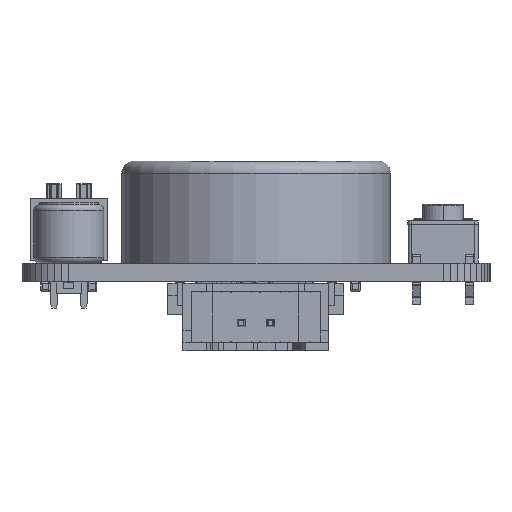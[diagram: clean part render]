
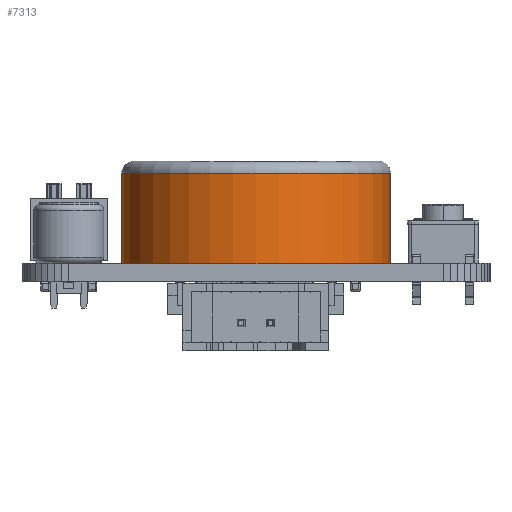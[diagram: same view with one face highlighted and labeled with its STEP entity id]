
A CAD part, front view. The second image highlights one B-rep face of the part: STEP entity #7313.
In plain terms, the highlighted cylindrical face has radius 11.5 mm (diameter 23 mm), a full revolution.
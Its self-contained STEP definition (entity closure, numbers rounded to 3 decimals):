
#7193 = TOROIDAL_SURFACE('',#7194,10.5,1.);
#7194 = AXIS2_PLACEMENT_3D('',#7195,#7196,#7197);
#7195 = CARTESIAN_POINT('',(0.,0.,7.7));
#7196 = DIRECTION('',(0.,0.,1.));
#7197 = DIRECTION('',(1.,0.,0.));
#7239 = VERTEX_POINT('',#7240);
#7240 = CARTESIAN_POINT('',(11.5,0.,7.7));
#7265 = EDGE_CURVE('',#7239,#7239,#7266,.T.);
#7266 = SURFACE_CURVE('',#7267,(#7272,#7301),.PCURVE_S1.);
#7267 = CIRCLE('',#7268,11.5);
#7268 = AXIS2_PLACEMENT_3D('',#7269,#7270,#7271);
#7269 = CARTESIAN_POINT('',(0.,0.,7.7));
#7270 = DIRECTION('',(0.,0.,1.));
#7271 = DIRECTION('',(-1.,0.,0.));
#7272 = PCURVE('',#7193,#7273);
#7273 = DEFINITIONAL_REPRESENTATION('',(#7274),#7300);
#7274 = B_SPLINE_CURVE_WITH_KNOTS('',3,(#7275,#7276,#7277,#7278,#7279,
    #7280,#7281,#7282,#7283,#7284,#7285,#7286,#7287,#7288,#7289,#7290,
    #7291,#7292,#7293,#7294,#7295,#7296,#7297,#7298,#7299),
  .UNSPECIFIED.,.F.,.F.,(4,1,1,1,1,1,1,1,1,1,1,1,1,1,1,1,1,1,1,1,1,1,4),
  (3.142,3.427,3.713,3.998,
    4.284,4.57,4.855,5.141,
    5.426,5.712,5.998,6.283,
    6.569,6.854,7.14,7.426,
    7.711,7.997,8.282,8.568,
    8.854,9.139,9.425),.QUASI_UNIFORM_KNOTS.);
#7275 = CARTESIAN_POINT('',(0.,6.283));
#7276 = CARTESIAN_POINT('',(0.095,6.283));
#7277 = CARTESIAN_POINT('',(0.286,6.283));
#7278 = CARTESIAN_POINT('',(0.571,6.283));
#7279 = CARTESIAN_POINT('',(0.857,6.283));
#7280 = CARTESIAN_POINT('',(1.142,6.283));
#7281 = CARTESIAN_POINT('',(1.428,6.283));
#7282 = CARTESIAN_POINT('',(1.714,6.283));
#7283 = CARTESIAN_POINT('',(1.999,6.283));
#7284 = CARTESIAN_POINT('',(2.285,6.283));
#7285 = CARTESIAN_POINT('',(2.57,6.283));
#7286 = CARTESIAN_POINT('',(2.856,6.283));
#7287 = CARTESIAN_POINT('',(3.142,6.283));
#7288 = CARTESIAN_POINT('',(3.427,6.283));
#7289 = CARTESIAN_POINT('',(3.713,6.283));
#7290 = CARTESIAN_POINT('',(3.998,6.283));
#7291 = CARTESIAN_POINT('',(4.284,6.283));
#7292 = CARTESIAN_POINT('',(4.57,6.283));
#7293 = CARTESIAN_POINT('',(4.855,6.283));
#7294 = CARTESIAN_POINT('',(5.141,6.283));
#7295 = CARTESIAN_POINT('',(5.426,6.283));
#7296 = CARTESIAN_POINT('',(5.712,6.283));
#7297 = CARTESIAN_POINT('',(5.998,6.283));
#7298 = CARTESIAN_POINT('',(6.188,6.283));
#7299 = CARTESIAN_POINT('',(6.283,6.283));
#7300 = ( GEOMETRIC_REPRESENTATION_CONTEXT(2) 
PARAMETRIC_REPRESENTATION_CONTEXT() REPRESENTATION_CONTEXT('2D SPACE',''
  ) );
#7301 = PCURVE('',#7302,#7307);
#7302 = CYLINDRICAL_SURFACE('',#7303,11.5);
#7303 = AXIS2_PLACEMENT_3D('',#7304,#7305,#7306);
#7304 = CARTESIAN_POINT('',(0.,0.,0.));
#7305 = DIRECTION('',(0.,0.,1.));
#7306 = DIRECTION('',(-1.,0.,0.));
#7307 = DEFINITIONAL_REPRESENTATION('',(#7308),#7311);
#7308 = B_SPLINE_CURVE_WITH_KNOTS('',1,(#7309,#7310),.UNSPECIFIED.,.F.,
  .F.,(2,2),(3.142,9.425),.PIECEWISE_BEZIER_KNOTS.);
#7309 = CARTESIAN_POINT('',(3.142,7.7));
#7310 = CARTESIAN_POINT('',(9.425,7.7));
#7311 = ( GEOMETRIC_REPRESENTATION_CONTEXT(2) 
PARAMETRIC_REPRESENTATION_CONTEXT() REPRESENTATION_CONTEXT('2D SPACE',''
  ) );
#7313 = ADVANCED_FACE('',(#7314),#7302,.T.);
#7314 = FACE_BOUND('',#7315,.T.);
#7315 = EDGE_LOOP('',(#7316,#7317,#7339,#7369));
#7316 = ORIENTED_EDGE('',*,*,#7265,.F.);
#7317 = ORIENTED_EDGE('',*,*,#7318,.F.);
#7318 = EDGE_CURVE('',#7319,#7239,#7321,.T.);
#7319 = VERTEX_POINT('',#7320);
#7320 = CARTESIAN_POINT('',(11.5,0.,0.));
#7321 = SEAM_CURVE('',#7322,(#7325,#7332),.PCURVE_S1.);
#7322 = B_SPLINE_CURVE_WITH_KNOTS('',1,(#7323,#7324),.UNSPECIFIED.,.F.,
  .F.,(2,2),(0.,7.7),.PIECEWISE_BEZIER_KNOTS.);
#7323 = CARTESIAN_POINT('',(11.5,0.,0.));
#7324 = CARTESIAN_POINT('',(11.5,0.,7.7));
#7325 = PCURVE('',#7302,#7326);
#7326 = DEFINITIONAL_REPRESENTATION('',(#7327),#7331);
#7327 = LINE('',#7328,#7329);
#7328 = CARTESIAN_POINT('',(3.142,0.));
#7329 = VECTOR('',#7330,1.);
#7330 = DIRECTION('',(0.,1.));
#7331 = ( GEOMETRIC_REPRESENTATION_CONTEXT(2) 
PARAMETRIC_REPRESENTATION_CONTEXT() REPRESENTATION_CONTEXT('2D SPACE',''
  ) );
#7332 = PCURVE('',#7302,#7333);
#7333 = DEFINITIONAL_REPRESENTATION('',(#7334),#7338);
#7334 = LINE('',#7335,#7336);
#7335 = CARTESIAN_POINT('',(9.425,0.));
#7336 = VECTOR('',#7337,1.);
#7337 = DIRECTION('',(0.,1.));
#7338 = ( GEOMETRIC_REPRESENTATION_CONTEXT(2) 
PARAMETRIC_REPRESENTATION_CONTEXT() REPRESENTATION_CONTEXT('2D SPACE',''
  ) );
#7339 = ORIENTED_EDGE('',*,*,#7340,.F.);
#7340 = EDGE_CURVE('',#7319,#7319,#7341,.T.);
#7341 = SURFACE_CURVE('',#7342,(#7347,#7353),.PCURVE_S1.);
#7342 = CIRCLE('',#7343,11.5);
#7343 = AXIS2_PLACEMENT_3D('',#7344,#7345,#7346);
#7344 = CARTESIAN_POINT('',(0.,0.,0.));
#7345 = DIRECTION('',(0.,0.,-1.));
#7346 = DIRECTION('',(-1.,0.,0.));
#7347 = PCURVE('',#7302,#7348);
#7348 = DEFINITIONAL_REPRESENTATION('',(#7349),#7352);
#7349 = B_SPLINE_CURVE_WITH_KNOTS('',1,(#7350,#7351),.UNSPECIFIED.,.F.,
  .F.,(2,2),(3.142,9.425),.PIECEWISE_BEZIER_KNOTS.);
#7350 = CARTESIAN_POINT('',(9.425,0.));
#7351 = CARTESIAN_POINT('',(3.142,0.));
#7352 = ( GEOMETRIC_REPRESENTATION_CONTEXT(2) 
PARAMETRIC_REPRESENTATION_CONTEXT() REPRESENTATION_CONTEXT('2D SPACE',''
  ) );
#7353 = PCURVE('',#7354,#7359);
#7354 = PLANE('',#7355);
#7355 = AXIS2_PLACEMENT_3D('',#7356,#7357,#7358);
#7356 = CARTESIAN_POINT('',(0.,0.,
    0.));
#7357 = DIRECTION('',(0.,0.,1.));
#7358 = DIRECTION('',(1.,0.,0.));
#7359 = DEFINITIONAL_REPRESENTATION('',(#7360),#7368);
#7360 = ( BOUNDED_CURVE() B_SPLINE_CURVE(2,(#7361,#7362,#7363,#7364,
#7365,#7366,#7367),.UNSPECIFIED.,.F.,.F.) B_SPLINE_CURVE_WITH_KNOTS((1,2
    ,2,2,2,1),(-2.094,0.,2.094,4.189,
6.283,8.378),.UNSPECIFIED.) CURVE() 
GEOMETRIC_REPRESENTATION_ITEM() RATIONAL_B_SPLINE_CURVE((1.,0.5,1.,0.5,
1.,0.5,1.)) REPRESENTATION_ITEM('') );
#7361 = CARTESIAN_POINT('',(-11.5,0.));
#7362 = CARTESIAN_POINT('',(-11.5,19.919));
#7363 = CARTESIAN_POINT('',(5.75,9.959));
#7364 = CARTESIAN_POINT('',(23.,0.));
#7365 = CARTESIAN_POINT('',(5.75,-9.959));
#7366 = CARTESIAN_POINT('',(-11.5,-19.919));
#7367 = CARTESIAN_POINT('',(-11.5,0.));
#7368 = ( GEOMETRIC_REPRESENTATION_CONTEXT(2) 
PARAMETRIC_REPRESENTATION_CONTEXT() REPRESENTATION_CONTEXT('2D SPACE',''
  ) );
#7369 = ORIENTED_EDGE('',*,*,#7318,.T.);
